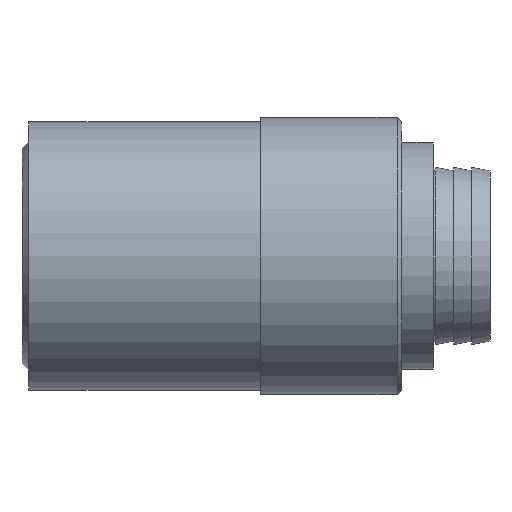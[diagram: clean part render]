
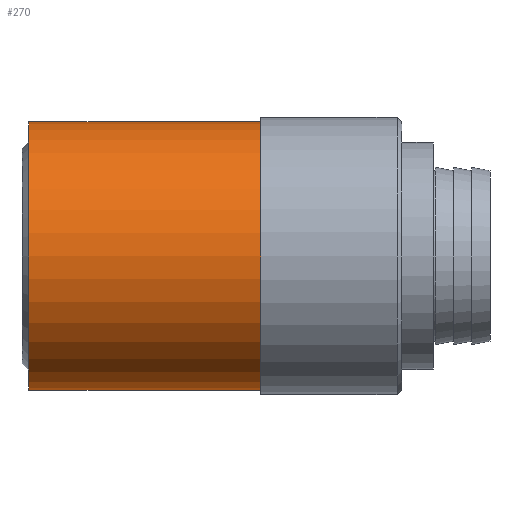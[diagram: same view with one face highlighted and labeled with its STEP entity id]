
A CAD part, front view. The second image highlights one B-rep face of the part: STEP entity #270.
In plain terms, the highlighted cylindrical face has radius 14.986 mm (diameter 29.972 mm), a full revolution.
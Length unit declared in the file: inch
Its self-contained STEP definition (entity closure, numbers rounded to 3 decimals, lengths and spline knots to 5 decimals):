
#32=CYLINDRICAL_SURFACE('',#327,0.59);
#73=ORIENTED_EDGE('',*,*,#100,.T.);
#74=ORIENTED_EDGE('',*,*,#99,.F.);
#99=EDGE_CURVE('',#122,#122,#145,.T.);
#100=EDGE_CURVE('',#123,#123,#146,.T.);
#122=VERTEX_POINT('',#488);
#123=VERTEX_POINT('',#491);
#145=CIRCLE('',#326,0.59);
#146=CIRCLE('',#328,0.59);
#188=EDGE_LOOP('',(#73));
#189=EDGE_LOOP('',(#74));
#234=FACE_BOUND('',#188,.T.);
#235=FACE_BOUND('',#189,.T.);
#270=ADVANCED_FACE('',(#234,#235),#32,.T.);
#326=AXIS2_PLACEMENT_3D('',#487,#414,#415);
#327=AXIS2_PLACEMENT_3D('',#489,#416,#417);
#328=AXIS2_PLACEMENT_3D('',#490,#418,#419);
#414=DIRECTION('',(1.,0.,0.));
#415=DIRECTION('',(0.,0.,-1.));
#416=DIRECTION('',(1.,0.,0.));
#417=DIRECTION('',(0.,0.,-1.));
#418=DIRECTION('',(1.,0.,0.));
#419=DIRECTION('',(0.,0.,-1.));
#487=CARTESIAN_POINT('',(1.02,0.,0.));
#488=CARTESIAN_POINT('',(1.02,0.,-0.59));
#489=CARTESIAN_POINT('',(2.03,0.,0.));
#490=CARTESIAN_POINT('',(0.,0.,0.));
#491=CARTESIAN_POINT('',(0.,0.,-0.59));
